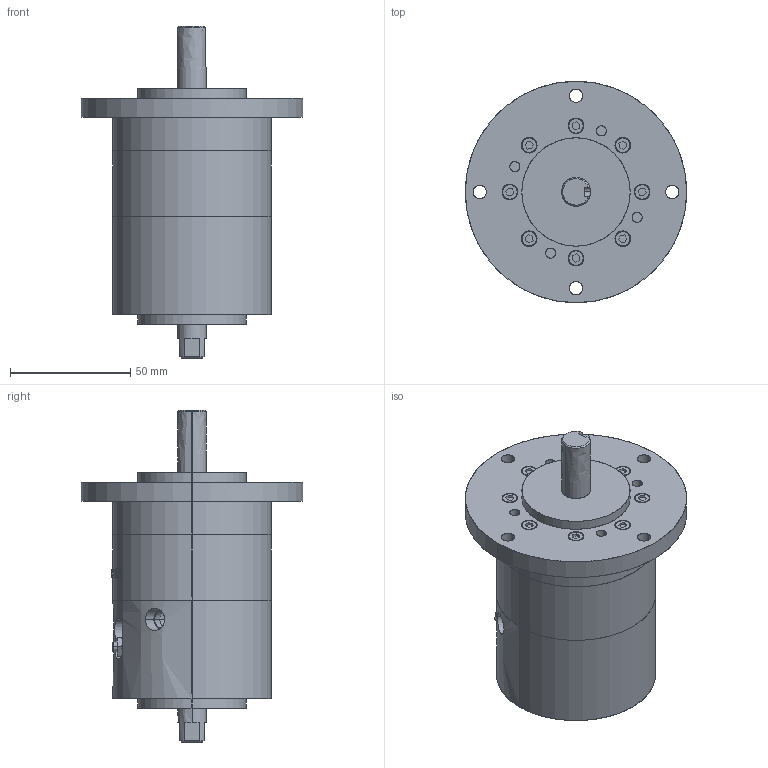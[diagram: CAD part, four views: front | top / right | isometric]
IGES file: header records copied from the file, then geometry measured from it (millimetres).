
Start section: SolidWorks IGES file using analytic representation for surfaces
Global section: file name: C:\Users\Chieh_Lu\Dropbox\¤u§@«Ç\HRN\HRN15S-C.IGS; native system: SolidWorks 2014; preprocessor: SolidWorks 2014; author: Chieh_Lu; date: 160115.005857; units: millimetre
Bounding box: 92 x 92 x 138 mm (x, y, z)
Surface area: 68842.8 mm2 (no closed solid volume)
Topology: 0 solids, 0 shells, 589 faces, 9142 edges, 9128 vertices
Faces by surface type: bspline 323, revolution 266
